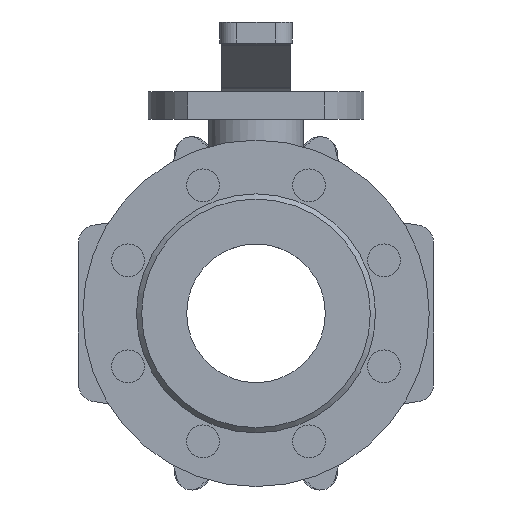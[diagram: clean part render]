
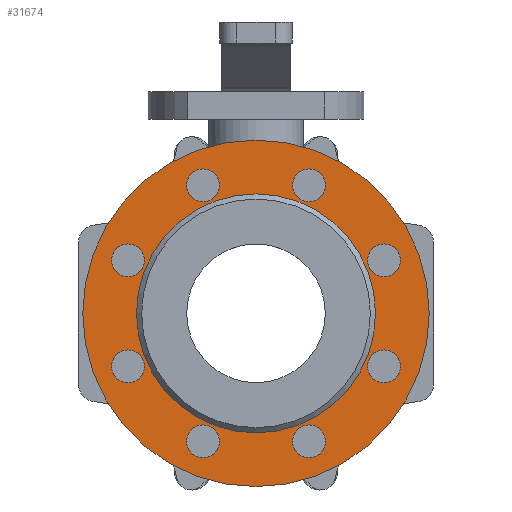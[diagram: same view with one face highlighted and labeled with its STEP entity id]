
A CAD part, left-side view. The second image highlights one B-rep face of the part: STEP entity #31674.
In plain terms, the highlighted planar face has unit normal (-1, 0, 0).
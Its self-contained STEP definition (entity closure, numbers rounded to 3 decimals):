
#31674=ADVANCED_FACE('',(#57046,#57048,#57050,#57052,#57054,#57056,#57058,#57060,
#57062,#57064),#57066,.T.);
#57046=FACE_BOUND('',#57047,.T.);
#57047=EDGE_LOOP('',(#78305,#78306));
#57048=FACE_BOUND('',#57049,.T.);
#57049=EDGE_LOOP('',(#78307));
#57050=FACE_BOUND('',#57051,.T.);
#57051=EDGE_LOOP('',(#78308));
#57052=FACE_BOUND('',#57053,.T.);
#57053=EDGE_LOOP('',(#78309));
#57054=FACE_BOUND('',#57055,.T.);
#57055=EDGE_LOOP('',(#78310));
#57056=FACE_BOUND('',#57057,.T.);
#57057=EDGE_LOOP('',(#78311));
#57058=FACE_BOUND('',#57059,.T.);
#57059=EDGE_LOOP('',(#78312));
#57060=FACE_BOUND('',#57061,.T.);
#57061=EDGE_LOOP('',(#78313));
#57062=FACE_BOUND('',#57063,.T.);
#57063=EDGE_LOOP('',(#78314,#78315));
#57064=FACE_BOUND('',#57065,.T.);
#57065=EDGE_LOOP('',(#78316));
#57066=PLANE('',#57067);
#57067=AXIS2_PLACEMENT_3D('',#57068,#57069,#57070);
#57068=CARTESIAN_POINT('',(4639.166,1366.88,0.));
#57069=DIRECTION('',(-1.,0.,0.));
#57070=DIRECTION('',(0.,0.,1.));
#78305=ORIENTED_EDGE('',*,*,#89030,.F.);
#78306=ORIENTED_EDGE('',*,*,#89031,.F.);
#78307=ORIENTED_EDGE('',*,*,#88930,.T.);
#78308=ORIENTED_EDGE('',*,*,#88932,.T.);
#78309=ORIENTED_EDGE('',*,*,#88934,.T.);
#78310=ORIENTED_EDGE('',*,*,#88938,.T.);
#78311=ORIENTED_EDGE('',*,*,#88940,.T.);
#78312=ORIENTED_EDGE('',*,*,#88942,.T.);
#78313=ORIENTED_EDGE('',*,*,#88944,.T.);
#78314=ORIENTED_EDGE('',*,*,#89032,.T.);
#78315=ORIENTED_EDGE('',*,*,#89033,.T.);
#78316=ORIENTED_EDGE('',*,*,#88928,.T.);
#88928=EDGE_CURVE('',#106144,#106144,#106145,.T.);
#88930=EDGE_CURVE('',#106148,#106148,#106149,.T.);
#88932=EDGE_CURVE('',#106152,#106152,#106153,.T.);
#88934=EDGE_CURVE('',#106156,#106156,#106157,.T.);
#88938=EDGE_CURVE('',#106164,#106164,#106165,.T.);
#88940=EDGE_CURVE('',#106168,#106168,#106169,.T.);
#88942=EDGE_CURVE('',#106172,#106172,#106173,.T.);
#88944=EDGE_CURVE('',#106176,#106176,#106177,.T.);
#89030=EDGE_CURVE('',#106323,#106324,#106325,.T.);
#89031=EDGE_CURVE('',#106324,#106323,#106326,.T.);
#89032=EDGE_CURVE('',#106327,#106328,#106329,.T.);
#89033=EDGE_CURVE('',#106328,#106327,#106330,.T.);
#106144=VERTEX_POINT('',#144764);
#106145=CIRCLE('',#144765,9.5);
#106148=VERTEX_POINT('',#144774);
#106149=CIRCLE('',#144775,9.5);
#106152=VERTEX_POINT('',#144784);
#106153=CIRCLE('',#144785,9.5);
#106156=VERTEX_POINT('',#144794);
#106157=CIRCLE('',#144795,9.5);
#106164=VERTEX_POINT('',#144814);
#106165=CIRCLE('',#144815,9.5);
#106168=VERTEX_POINT('',#144824);
#106169=CIRCLE('',#144825,9.5);
#106172=VERTEX_POINT('',#144834);
#106173=CIRCLE('',#144835,9.5);
#106176=VERTEX_POINT('',#144844);
#106177=CIRCLE('',#144845,9.5);
#106323=VERTEX_POINT('',#145795);
#106324=VERTEX_POINT('',#145796);
#106325=CIRCLE('',#145797,100.);
#106326=CIRCLE('',#145801,100.);
#106327=VERTEX_POINT('',#145805);
#106328=VERTEX_POINT('',#145806);
#106329=CIRCLE('',#145807,69.);
#106330=CIRCLE('',#145811,69.);
#144764=CARTESIAN_POINT('',(4639.166,1226.766,73.91));
#144765=AXIS2_PLACEMENT_3D('',#144766,#144767,#144768);
#144766=CARTESIAN_POINT('',(4639.166,1236.266,73.91));
#144767=DIRECTION('',(1.,0.,0.));
#144768=DIRECTION('',(0.,-1.,0.));
#144774=CARTESIAN_POINT('',(4639.166,1183.47,-30.615));
#144775=AXIS2_PLACEMENT_3D('',#144776,#144777,#144778);
#144776=CARTESIAN_POINT('',(4639.166,1192.97,-30.615));
#144777=DIRECTION('',(1.,0.,0.));
#144778=DIRECTION('',(0.,-1.,0.));
#144784=CARTESIAN_POINT('',(4639.166,1287.995,-73.91));
#144785=AXIS2_PLACEMENT_3D('',#144786,#144787,#144788);
#144786=CARTESIAN_POINT('',(4639.166,1297.495,-73.91));
#144787=DIRECTION('',(1.,0.,0.));
#144788=DIRECTION('',(0.,-1.,0.));
#144794=CARTESIAN_POINT('',(4639.166,1331.291,30.615));
#144795=AXIS2_PLACEMENT_3D('',#144796,#144797,#144798);
#144796=CARTESIAN_POINT('',(4639.166,1340.791,30.615));
#144797=DIRECTION('',(1.,0.,0.));
#144798=DIRECTION('',(0.,-1.,0.));
#144814=CARTESIAN_POINT('',(4639.166,1331.291,-30.615));
#144815=AXIS2_PLACEMENT_3D('',#144816,#144817,#144818);
#144816=CARTESIAN_POINT('',(4639.166,1340.791,-30.615));
#144817=DIRECTION('',(1.,0.,0.));
#144818=DIRECTION('',(0.,-1.,0.));
#144824=CARTESIAN_POINT('',(4639.166,1226.766,-73.91));
#144825=AXIS2_PLACEMENT_3D('',#144826,#144827,#144828);
#144826=CARTESIAN_POINT('',(4639.166,1236.266,-73.91));
#144827=DIRECTION('',(1.,0.,0.));
#144828=DIRECTION('',(0.,-1.,0.));
#144834=CARTESIAN_POINT('',(4639.166,1183.47,30.615));
#144835=AXIS2_PLACEMENT_3D('',#144836,#144837,#144838);
#144836=CARTESIAN_POINT('',(4639.166,1192.97,30.615));
#144837=DIRECTION('',(1.,0.,0.));
#144838=DIRECTION('',(0.,-1.,0.));
#144844=CARTESIAN_POINT('',(4639.166,1287.995,73.91));
#144845=AXIS2_PLACEMENT_3D('',#144846,#144847,#144848);
#144846=CARTESIAN_POINT('',(4639.166,1297.495,73.91));
#144847=DIRECTION('',(1.,0.,0.));
#144848=DIRECTION('',(0.,-1.,0.));
#145795=CARTESIAN_POINT('',(4639.166,1166.88,0.));
#145796=CARTESIAN_POINT('',(4639.166,1366.88,0.));
#145797=AXIS2_PLACEMENT_3D('',#145798,#145799,#145800);
#145798=CARTESIAN_POINT('',(4639.166,1266.88,0.));
#145799=DIRECTION('',(1.,0.,0.));
#145800=DIRECTION('',(0.,-1.,0.));
#145801=AXIS2_PLACEMENT_3D('',#145802,#145803,#145804);
#145802=CARTESIAN_POINT('',(4639.166,1266.88,0.));
#145803=DIRECTION('',(1.,0.,0.));
#145804=DIRECTION('',(0.,1.,0.));
#145805=CARTESIAN_POINT('',(4639.166,1335.88,0.));
#145806=CARTESIAN_POINT('',(4639.166,1197.88,0.));
#145807=AXIS2_PLACEMENT_3D('',#145808,#145809,#145810);
#145808=CARTESIAN_POINT('',(4639.166,1266.88,0.));
#145809=DIRECTION('',(1.,0.,0.));
#145810=DIRECTION('',(0.,1.,0.));
#145811=AXIS2_PLACEMENT_3D('',#145812,#145813,#145814);
#145812=CARTESIAN_POINT('',(4639.166,1266.88,0.));
#145813=DIRECTION('',(1.,0.,0.));
#145814=DIRECTION('',(0.,-1.,0.));
